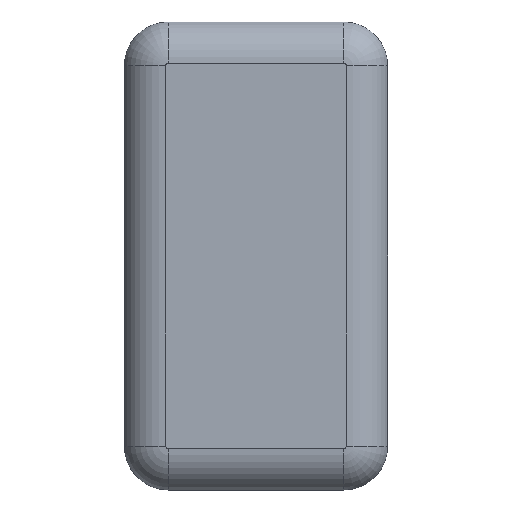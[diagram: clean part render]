
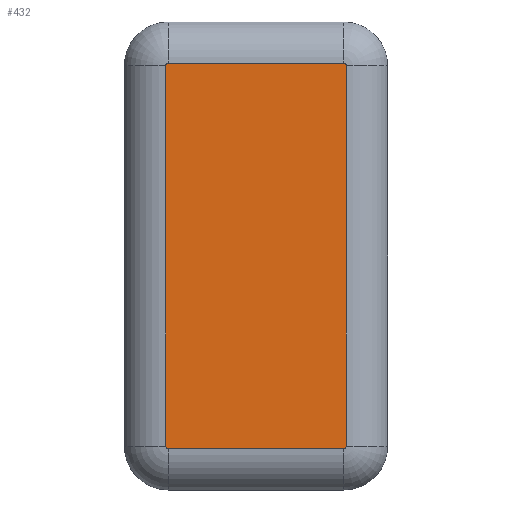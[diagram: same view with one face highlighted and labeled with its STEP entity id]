
A CAD part, top view. The second image highlights one B-rep face of the part: STEP entity #432.
In plain terms, the highlighted planar face has unit normal (0, 0, 1).
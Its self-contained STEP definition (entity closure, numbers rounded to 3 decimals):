
#2 = ORIENTED_EDGE ( 'NONE', *, *, #521, .T. ) ;
#6 = VECTOR ( 'NONE', #200, 1000. ) ;
#9 = CARTESIAN_POINT ( 'NONE',  ( 6., -13., 2. ) ) ;
#20 = VECTOR ( 'NONE', #366, 1000. ) ;
#21 = AXIS2_PLACEMENT_3D ( 'NONE', #290, #243, #202 ) ;
#27 = CARTESIAN_POINT ( 'NONE',  ( 6.172, 13., 2. ) ) ;
#41 = AXIS2_PLACEMENT_3D ( 'NONE', #209, #421, #341 ) ;
#47 = EDGE_CURVE ( 'NONE', #388, #126, #435, .T. ) ;
#56 = CARTESIAN_POINT ( 'NONE',  ( 6., 13.172, 2. ) ) ;
#74 = VERTEX_POINT ( 'NONE', #56 ) ;
#75 = LINE ( 'NONE', #119, #463 ) ;
#77 = DIRECTION ( 'NONE',  ( 1., 0., 0. ) ) ;
#112 = CARTESIAN_POINT ( 'NONE',  ( 6., -13.172, 2. ) ) ;
#114 = DIRECTION ( 'NONE',  ( -1., 0., 0. ) ) ;
#119 = CARTESIAN_POINT ( 'NONE',  ( -6., 13.172, 2. ) ) ;
#122 = ORIENTED_EDGE ( 'NONE', *, *, #486, .T. ) ;
#126 = VERTEX_POINT ( 'NONE', #311 ) ;
#127 = DIRECTION ( 'NONE',  ( 1., 0., 0. ) ) ;
#146 = CARTESIAN_POINT ( 'NONE',  ( -6., -13.172, 2. ) ) ;
#150 = DIRECTION ( 'NONE',  ( 0., 0., 1. ) ) ;
#157 = LINE ( 'NONE', #112, #533 ) ;
#169 = ORIENTED_EDGE ( 'NONE', *, *, #562, .T. ) ;
#170 = EDGE_LOOP ( 'NONE', ( #122, #289, #390, #386, #413, #331, #169, #2 ) ) ;
#189 = CIRCLE ( 'NONE', #516, 0.172 ) ;
#200 = DIRECTION ( 'NONE',  ( 0., 1., 0. ) ) ;
#202 = DIRECTION ( 'NONE',  ( 1., 0., 0. ) ) ;
#209 = CARTESIAN_POINT ( 'NONE',  ( -6., 13., 2. ) ) ;
#224 = EDGE_CURVE ( 'NONE', #428, #388, #189, .T. ) ;
#226 = AXIS2_PLACEMENT_3D ( 'NONE', #9, #476, #127 ) ;
#238 = VERTEX_POINT ( 'NONE', #27 ) ;
#243 = DIRECTION ( 'NONE',  ( 0., 0., 1. ) ) ;
#247 = EDGE_CURVE ( 'NONE', #126, #256, #465, .T. ) ;
#250 = FACE_OUTER_BOUND ( 'NONE', #170, .T. ) ;
#255 = DIRECTION ( 'NONE',  ( 0., 0., 1. ) ) ;
#256 = VERTEX_POINT ( 'NONE', #146 ) ;
#272 = CARTESIAN_POINT ( 'NONE',  ( -6.172, -13., 2. ) ) ;
#288 = CARTESIAN_POINT ( 'NONE',  ( 6., 13., 2. ) ) ;
#289 = ORIENTED_EDGE ( 'NONE', *, *, #425, .T. ) ;
#290 = CARTESIAN_POINT ( 'NONE',  ( -6., -13., 2. ) ) ;
#299 = CARTESIAN_POINT ( 'NONE',  ( -6., 13.172, 2. ) ) ;
#311 = CARTESIAN_POINT ( 'NONE',  ( -6.172, -13., 2. ) ) ;
#331 = ORIENTED_EDGE ( 'NONE', *, *, #470, .T. ) ;
#341 = DIRECTION ( 'NONE',  ( 1., 0., 0. ) ) ;
#363 = CIRCLE ( 'NONE', #226, 0.172 ) ;
#366 = DIRECTION ( 'NONE',  ( 0., -1., 0. ) ) ;
#386 = ORIENTED_EDGE ( 'NONE', *, *, #47, .T. ) ;
#388 = VERTEX_POINT ( 'NONE', #517 ) ;
#390 = ORIENTED_EDGE ( 'NONE', *, *, #224, .T. ) ;
#401 = VERTEX_POINT ( 'NONE', #557 ) ;
#412 = LINE ( 'NONE', #552, #6 ) ;
#413 = ORIENTED_EDGE ( 'NONE', *, *, #247, .T. ) ;
#418 = DIRECTION ( 'NONE',  ( 1., 0., 0. ) ) ;
#421 = DIRECTION ( 'NONE',  ( 0., 0., 1. ) ) ;
#425 = EDGE_CURVE ( 'NONE', #74, #428, #75, .T. ) ;
#428 = VERTEX_POINT ( 'NONE', #299 ) ;
#429 = CIRCLE ( 'NONE', #532, 0.172 ) ;
#432 = ADVANCED_FACE ( 'NONE', ( #250 ), #467, .T. ) ;
#434 = CARTESIAN_POINT ( 'NONE',  ( 6.172, -13., 2. ) ) ;
#435 = LINE ( 'NONE', #272, #20 ) ;
#463 = VECTOR ( 'NONE', #114, 1000. ) ;
#465 = CIRCLE ( 'NONE', #21, 0.172 ) ;
#467 = PLANE ( 'NONE',  #41 ) ;
#470 = EDGE_CURVE ( 'NONE', #256, #401, #157, .T. ) ;
#476 = DIRECTION ( 'NONE',  ( 0., 0., 1. ) ) ;
#486 = EDGE_CURVE ( 'NONE', #238, #74, #429, .T. ) ;
#501 = DIRECTION ( 'NONE',  ( 1., 0., 0. ) ) ;
#516 = AXIS2_PLACEMENT_3D ( 'NONE', #542, #150, #501 ) ;
#517 = CARTESIAN_POINT ( 'NONE',  ( -6.172, 13., 2. ) ) ;
#521 = EDGE_CURVE ( 'NONE', #561, #238, #412, .T. ) ;
#532 = AXIS2_PLACEMENT_3D ( 'NONE', #288, #255, #418 ) ;
#533 = VECTOR ( 'NONE', #77, 1000. ) ;
#542 = CARTESIAN_POINT ( 'NONE',  ( -6., 13., 2. ) ) ;
#552 = CARTESIAN_POINT ( 'NONE',  ( 6.172, 13., 2. ) ) ;
#557 = CARTESIAN_POINT ( 'NONE',  ( 6., -13.172, 2. ) ) ;
#561 = VERTEX_POINT ( 'NONE', #434 ) ;
#562 = EDGE_CURVE ( 'NONE', #401, #561, #363, .T. ) ;
